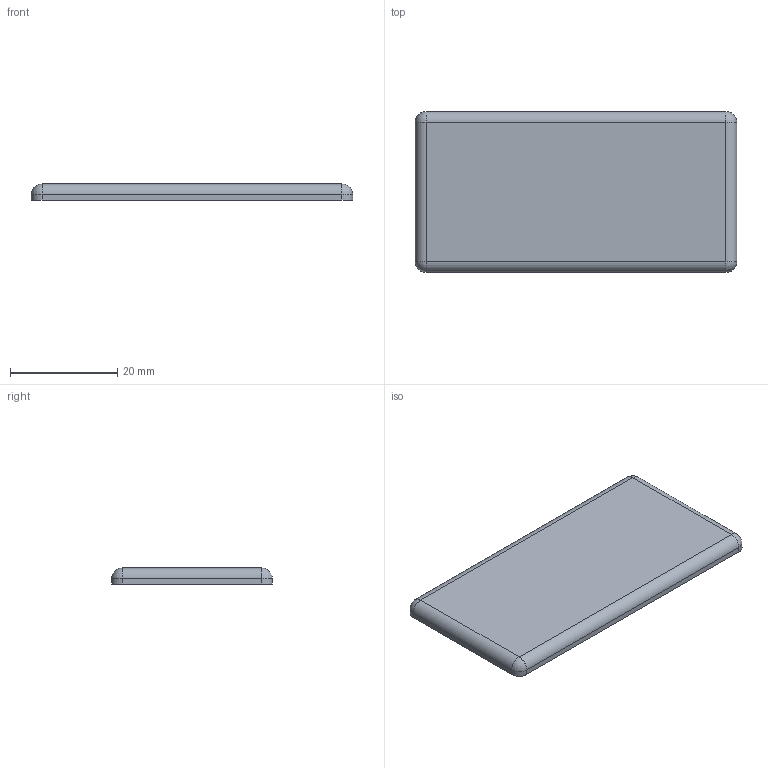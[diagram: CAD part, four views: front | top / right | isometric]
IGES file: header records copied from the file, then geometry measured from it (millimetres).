
Start section: SolidWorks IGES file using analytic representation for surfaces
Global section: file name: C:\Documents and Settings\Administrator\デスクトップ\指定保存後3回目\SolidWorks\SF\SF30\Parts\SFA-005.IGS; native system: SolidWorks 2006 by SolidWorks Corporation; preprocessor: SolidWorks 2006 by SolidWorks Corporation; author: Administrator; date: 061213.104351; units: millimetre
Bounding box: 60 x 30 x 3 mm (x, y, z)
Surface area: 3969.5 mm2 (no closed solid volume)
Topology: 0 solids, 0 shells, 18 faces, 140 edges, 172 vertices
Faces by surface type: revolution 12, bspline 6
